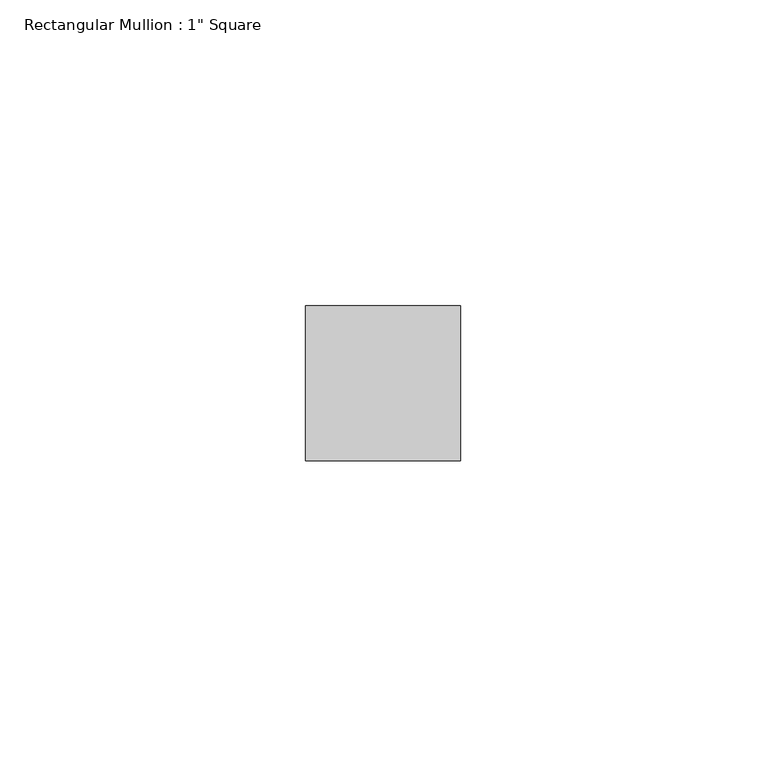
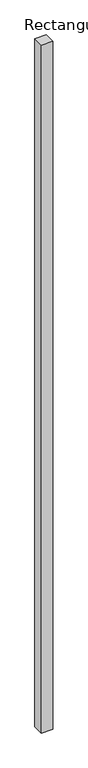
"""IFC4 building model written with IfcOpenShell, lengths in millimetres: member geometry."""

from ifc_helpers import new_model, si_unit, frame, origin, place, context, project, spatial, polyline, outline, extrude, source, transform, mapped, element, save


def member_6de91377(model_context):
    return source(origin(), model_context, "Body", "SweptSolid", [
        extrude(outline(polyline([(12.7, 12.7), (12.7, -12.7), (-12.7, -12.7), (-12.7, 12.7), (12.7, 12.7)])), frame((0.0, 0.0, -1629.6668432), z_axis=(0.0, 0.0, 1.0), x_axis=(1.0, 0.0, 0.0)), (0.0, 0.0, 1.0), 1629.6668432),
    ])


if __name__ == "__main__":
    model = new_model("IFC4")
    model_context = context("Model", 3, world=origin())
    ifc_project = project(units=[si_unit("LENGTHUNIT", "METRE", prefix="MILLI")], contexts=[model_context])
    site = spatial("IfcSite", under=ifc_project)
    building = spatial("IfcBuilding", under=site)
    placement = place(None, origin())
    member_shape = member_6de91377(model_context)
    element("IfcMember", 1, ObjectType="Rectangular Mullion : 1\" Square", at=placement, inside=building, context=model_context, shape_type="MappedRepresentation", body=[
        mapped(member_shape, transform((0.0, 0.0, 0.0), x_axis=(1.0, 0.0, 0.0), y_axis=(0.0, 1.0, 0.0), z_axis=(0.0, 0.0, 1.0))),
    ])
    save(model, "model.ifc")
